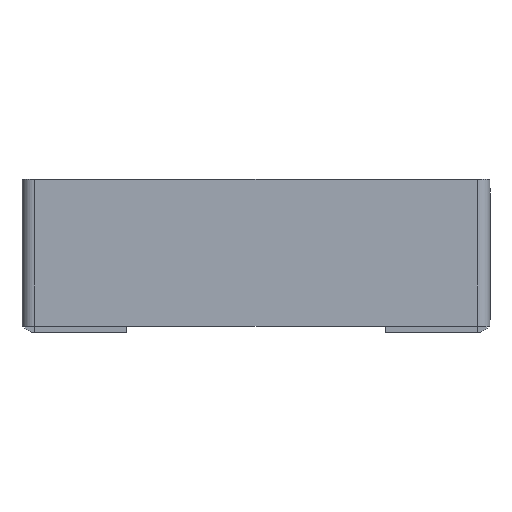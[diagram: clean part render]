
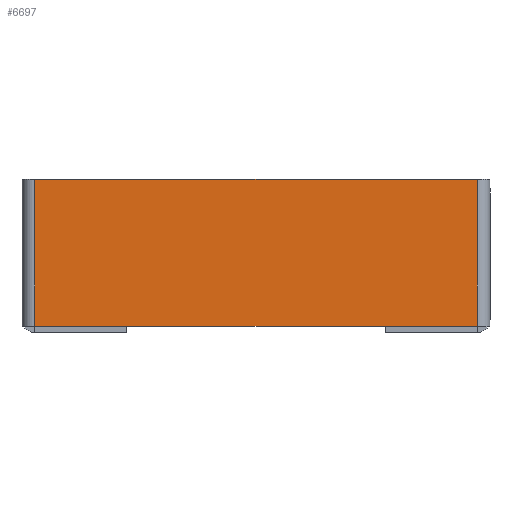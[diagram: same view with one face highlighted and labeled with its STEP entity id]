
A CAD part, front view. The second image highlights one B-rep face of the part: STEP entity #6697.
In plain terms, the highlighted planar face has unit normal (0, -1, 0).
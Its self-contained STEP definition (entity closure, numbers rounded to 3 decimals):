
#172 = VECTOR ( 'NONE', #5294, 1000. ) ;
#552 = DIRECTION ( 'NONE',  ( 0., 0., 1. ) ) ;
#932 = LINE ( 'NONE', #1607, #6582 ) ;
#1228 = ORIENTED_EDGE ( 'NONE', *, *, #4879, .T. ) ;
#1267 = DIRECTION ( 'NONE',  ( -1., 0., 0. ) ) ;
#1607 = CARTESIAN_POINT ( 'NONE',  ( -90., -2.5, 0. ) ) ;
#1738 = CARTESIAN_POINT ( 'NONE',  ( -87.5, -2.5, 0. ) ) ;
#2206 = LINE ( 'NONE', #1738, #4942 ) ;
#2313 = CARTESIAN_POINT ( 'NONE',  ( -87.5, -2.5, -58. ) ) ;
#2316 = CARTESIAN_POINT ( 'NONE',  ( -90., -2.5, -58. ) ) ;
#2650 = CARTESIAN_POINT ( 'NONE',  ( -87.5, -2.5, 0. ) ) ;
#2756 = VERTEX_POINT ( 'NONE', #2313 ) ;
#3059 = CARTESIAN_POINT ( 'NONE',  ( 87.5, -2.5, -58. ) ) ;
#3072 = CARTESIAN_POINT ( 'NONE',  ( 87.5, -2.5, -58. ) ) ;
#3400 = DIRECTION ( 'NONE',  ( 0., 0., -1. ) ) ;
#3627 = ORIENTED_EDGE ( 'NONE', *, *, #4612, .F. ) ;
#3689 = VECTOR ( 'NONE', #1267, 1000. ) ;
#3700 = ORIENTED_EDGE ( 'NONE', *, *, #4748, .F. ) ;
#3925 = DIRECTION ( 'NONE',  ( 0., 1., 0. ) ) ;
#4266 = VERTEX_POINT ( 'NONE', #4665 ) ;
#4527 = CARTESIAN_POINT ( 'NONE',  ( 0., -2.5, 0. ) ) ;
#4612 = EDGE_CURVE ( 'NONE', #6166, #4266, #932, .T. ) ;
#4664 = LINE ( 'NONE', #3059, #172 ) ;
#4665 = CARTESIAN_POINT ( 'NONE',  ( 87.5, -2.5, 0. ) ) ;
#4672 = EDGE_LOOP ( 'NONE', ( #6769, #3700, #1228, #3627 ) ) ;
#4748 = EDGE_CURVE ( 'NONE', #5660, #2756, #5982, .T. ) ;
#4879 = EDGE_CURVE ( 'NONE', #5660, #4266, #4664, .T. ) ;
#4942 = VECTOR ( 'NONE', #3400, 1000. ) ;
#5294 = DIRECTION ( 'NONE',  ( 0., 0., 1. ) ) ;
#5660 = VERTEX_POINT ( 'NONE', #3072 ) ;
#5834 = FACE_OUTER_BOUND ( 'NONE', #4672, .T. ) ;
#5982 = LINE ( 'NONE', #2316, #3689 ) ;
#6166 = VERTEX_POINT ( 'NONE', #2650 ) ;
#6582 = VECTOR ( 'NONE', #7235, 1000. ) ;
#6673 = EDGE_CURVE ( 'NONE', #6166, #2756, #2206, .T. ) ;
#6697 = ADVANCED_FACE ( 'NONE', ( #5834 ), #6729, .F. ) ;
#6729 = PLANE ( 'NONE',  #6917 ) ;
#6769 = ORIENTED_EDGE ( 'NONE', *, *, #6673, .T. ) ;
#6917 = AXIS2_PLACEMENT_3D ( 'NONE', #4527, #3925, #552 ) ;
#7235 = DIRECTION ( 'NONE',  ( 1., 0., 0. ) ) ;
